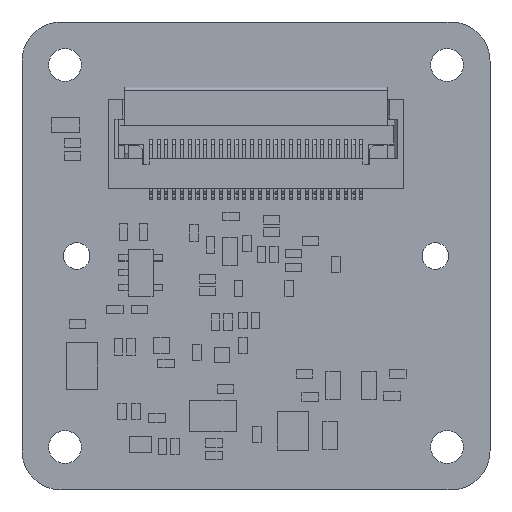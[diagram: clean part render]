
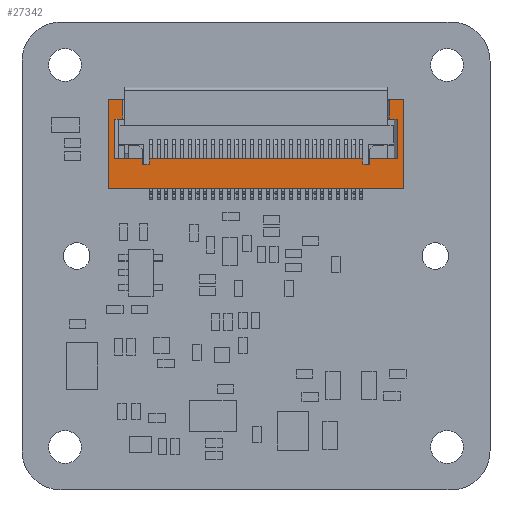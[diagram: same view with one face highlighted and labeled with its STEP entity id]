
A CAD part, top view. The second image highlights one B-rep face of the part: STEP entity #27342.
In plain terms, the highlighted planar face has unit normal (0, 0, 1).
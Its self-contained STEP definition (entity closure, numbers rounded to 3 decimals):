
#1000=FACE_OUTER_BOUND('',#2313,.T.);
#2313=EDGE_LOOP('',(#20439,#20440,#20441,#20442,#20443,#20444,#20445,#20446,
#20447,#20448,#20449,#20450,#20451,#20452,#20453,#20454,#20455,#20456,#20457,
#20458));
#4248=LINE('',#38373,#7653);
#4490=LINE('',#38854,#7895);
#4498=LINE('',#38870,#7903);
#4726=LINE('',#39340,#8131);
#4830=LINE('',#39580,#8235);
#5111=LINE('',#40211,#8516);
#5491=LINE('',#40989,#8896);
#5492=LINE('',#40991,#8897);
#5493=LINE('',#40993,#8898);
#5494=LINE('',#40995,#8899);
#5495=LINE('',#40997,#8900);
#5496=LINE('',#40999,#8901);
#5497=LINE('',#41000,#8902);
#5498=LINE('',#41001,#8903);
#5499=LINE('',#41003,#8904);
#5500=LINE('',#41005,#8905);
#5501=LINE('',#41007,#8906);
#5502=LINE('',#41009,#8907);
#5503=LINE('',#41011,#8908);
#5504=LINE('',#41012,#8909);
#7653=VECTOR('',#31199,1.);
#7895=VECTOR('',#31455,1.);
#7903=VECTOR('',#31463,1.);
#8131=VECTOR('',#31821,1.);
#8235=VECTOR('',#32077,1.);
#8516=VECTOR('',#32748,1.);
#8896=VECTOR('',#33532,1.);
#8897=VECTOR('',#33533,1.);
#8898=VECTOR('',#33534,1.);
#8899=VECTOR('',#33535,1.);
#8900=VECTOR('',#33536,1.);
#8901=VECTOR('',#33537,1.);
#8902=VECTOR('',#33538,1.);
#8903=VECTOR('',#33539,1.);
#8904=VECTOR('',#33540,1.);
#8905=VECTOR('',#33541,1.);
#8906=VECTOR('',#33542,1.);
#8907=VECTOR('',#33543,1.);
#8908=VECTOR('',#33544,1.);
#8909=VECTOR('',#33545,1.);
#11129=VERTEX_POINT('',#38370);
#11130=VERTEX_POINT('',#38372);
#11362=VERTEX_POINT('',#38853);
#11369=VERTEX_POINT('',#38867);
#11370=VERTEX_POINT('',#38869);
#11546=VERTEX_POINT('',#39337);
#11547=VERTEX_POINT('',#39339);
#11606=VERTEX_POINT('',#39578);
#11607=VERTEX_POINT('',#39579);
#11958=VERTEX_POINT('',#40988);
#11959=VERTEX_POINT('',#40990);
#11960=VERTEX_POINT('',#40992);
#11961=VERTEX_POINT('',#40994);
#11962=VERTEX_POINT('',#40996);
#11963=VERTEX_POINT('',#40998);
#11964=VERTEX_POINT('',#41002);
#11965=VERTEX_POINT('',#41004);
#11966=VERTEX_POINT('',#41006);
#11967=VERTEX_POINT('',#41008);
#11968=VERTEX_POINT('',#41010);
#13799=EDGE_CURVE('',#11130,#11129,#4248,.T.);
#14041=EDGE_CURVE('',#11362,#11130,#4490,.T.);
#14049=EDGE_CURVE('',#11370,#11369,#4498,.T.);
#14292=EDGE_CURVE('',#11546,#11547,#4726,.T.);
#14416=EDGE_CURVE('',#11606,#11607,#4830,.T.);
#14739=EDGE_CURVE('',#11362,#11546,#5111,.T.);
#15144=EDGE_CURVE('',#11606,#11958,#5491,.T.);
#15145=EDGE_CURVE('',#11958,#11959,#5492,.T.);
#15146=EDGE_CURVE('',#11960,#11959,#5493,.T.);
#15147=EDGE_CURVE('',#11961,#11960,#5494,.T.);
#15148=EDGE_CURVE('',#11962,#11961,#5495,.T.);
#15149=EDGE_CURVE('',#11962,#11963,#5496,.T.);
#15150=EDGE_CURVE('',#11963,#11370,#5497,.T.);
#15151=EDGE_CURVE('',#11369,#11547,#5498,.T.);
#15152=EDGE_CURVE('',#11964,#11129,#5499,.T.);
#15153=EDGE_CURVE('',#11964,#11965,#5500,.T.);
#15154=EDGE_CURVE('',#11965,#11966,#5501,.T.);
#15155=EDGE_CURVE('',#11966,#11967,#5502,.T.);
#15156=EDGE_CURVE('',#11968,#11967,#5503,.T.);
#15157=EDGE_CURVE('',#11607,#11968,#5504,.T.);
#20439=ORIENTED_EDGE('',*,*,#14416,.F.);
#20440=ORIENTED_EDGE('',*,*,#15144,.T.);
#20441=ORIENTED_EDGE('',*,*,#15145,.T.);
#20442=ORIENTED_EDGE('',*,*,#15146,.F.);
#20443=ORIENTED_EDGE('',*,*,#15147,.F.);
#20444=ORIENTED_EDGE('',*,*,#15148,.F.);
#20445=ORIENTED_EDGE('',*,*,#15149,.T.);
#20446=ORIENTED_EDGE('',*,*,#15150,.T.);
#20447=ORIENTED_EDGE('',*,*,#14049,.T.);
#20448=ORIENTED_EDGE('',*,*,#15151,.T.);
#20449=ORIENTED_EDGE('',*,*,#14292,.F.);
#20450=ORIENTED_EDGE('',*,*,#14739,.F.);
#20451=ORIENTED_EDGE('',*,*,#14041,.T.);
#20452=ORIENTED_EDGE('',*,*,#13799,.T.);
#20453=ORIENTED_EDGE('',*,*,#15152,.F.);
#20454=ORIENTED_EDGE('',*,*,#15153,.T.);
#20455=ORIENTED_EDGE('',*,*,#15154,.T.);
#20456=ORIENTED_EDGE('',*,*,#15155,.T.);
#20457=ORIENTED_EDGE('',*,*,#15156,.F.);
#20458=ORIENTED_EDGE('',*,*,#15157,.F.);
#24759=PLANE('',#28978);
#27342=ADVANCED_FACE('',(#1000),#24759,.F.);
#28978=AXIS2_PLACEMENT_3D('',#40987,#33530,#33531);
#31199=DIRECTION('',(0.,1.,0.));
#31455=DIRECTION('',(-1.,0.,0.));
#31463=DIRECTION('',(-1.,0.,0.));
#31821=DIRECTION('',(1.,0.,0.));
#32077=DIRECTION('',(-1.,0.,0.));
#32748=DIRECTION('',(0.,1.,0.));
#33530=DIRECTION('center_axis',(0.,0.,
-1.));
#33531=DIRECTION('ref_axis',(0.,-1.,0.));
#33532=DIRECTION('',(0.,1.,0.));
#33533=DIRECTION('',(-1.,0.,0.));
#33534=DIRECTION('',(0.,1.,0.));
#33535=DIRECTION('',(-1.,0.,0.));
#33536=DIRECTION('',(0.,1.,0.));
#33537=DIRECTION('',(-1.,0.,0.));
#33538=DIRECTION('',(0.,-1.,0.));
#33539=DIRECTION('',(0.,1.,0.));
#33540=DIRECTION('',(1.,0.,0.));
#33541=DIRECTION('',(0.,1.,0.));
#33542=DIRECTION('',(1.,0.,0.));
#33543=DIRECTION('',(0.,1.,0.));
#33544=DIRECTION('',(1.,0.,0.));
#33545=DIRECTION('',(0.,1.,0.));
#38370=CARTESIAN_POINT('',(7.715,21.225,2.5));
#38372=CARTESIAN_POINT('',(7.715,20.875,2.5));
#38373=CARTESIAN_POINT('',(7.715,25.025,2.5));
#38853=CARTESIAN_POINT('',(8.145,20.875,2.5));
#38854=CARTESIAN_POINT('',(27.645,20.875,2.5));
#38867=CARTESIAN_POINT('',(21.855,20.875,2.5));
#38869=CARTESIAN_POINT('',(22.285,20.875,2.5));
#38870=CARTESIAN_POINT('',(22.175,20.875,2.5));
#39337=CARTESIAN_POINT('',(8.145,21.225,2.5));
#39339=CARTESIAN_POINT('',(21.855,21.225,2.5));
#39340=CARTESIAN_POINT('',(22.645,21.225,2.5));
#39578=CARTESIAN_POINT('',(24.45,19.325,2.5));
#39579=CARTESIAN_POINT('',(5.55,19.325,2.5));
#39580=CARTESIAN_POINT('',(8.145,19.325,2.5));
#40211=CARTESIAN_POINT('',(8.145,25.025,2.5));
#40987=CARTESIAN_POINT('Origin',(12.645,21.225,2.5));
#40988=CARTESIAN_POINT('',(24.45,25.025,2.5));
#40989=CARTESIAN_POINT('',(24.45,25.025,2.5));
#40990=CARTESIAN_POINT('',(23.555,25.025,2.5));
#40991=CARTESIAN_POINT('',(9.355,25.025,2.5));
#40992=CARTESIAN_POINT('',(23.555,23.775,2.5));
#40993=CARTESIAN_POINT('',(23.555,25.025,2.5));
#40994=CARTESIAN_POINT('',(24.05,23.775,2.5));
#40995=CARTESIAN_POINT('',(9.355,23.775,2.5));
#40996=CARTESIAN_POINT('',(24.05,21.225,2.5));
#40997=CARTESIAN_POINT('',(24.05,25.025,2.5));
#40998=CARTESIAN_POINT('',(22.285,21.225,2.5));
#40999=CARTESIAN_POINT('',(9.355,21.225,2.5));
#41000=CARTESIAN_POINT('',(22.285,25.025,2.5));
#41001=CARTESIAN_POINT('',(21.855,25.025,2.5));
#41002=CARTESIAN_POINT('',(5.95,21.225,2.5));
#41003=CARTESIAN_POINT('',(27.645,21.225,2.5));
#41004=CARTESIAN_POINT('',(5.95,23.775,2.5));
#41005=CARTESIAN_POINT('',(5.95,25.025,2.5));
#41006=CARTESIAN_POINT('',(6.445,23.775,2.5));
#41007=CARTESIAN_POINT('',(27.645,23.775,2.5));
#41008=CARTESIAN_POINT('',(6.445,25.025,2.5));
#41009=CARTESIAN_POINT('',(6.445,25.025,2.5));
#41010=CARTESIAN_POINT('',(5.55,25.025,2.5));
#41011=CARTESIAN_POINT('',(27.645,25.025,2.5));
#41012=CARTESIAN_POINT('',(5.55,25.025,2.5));
